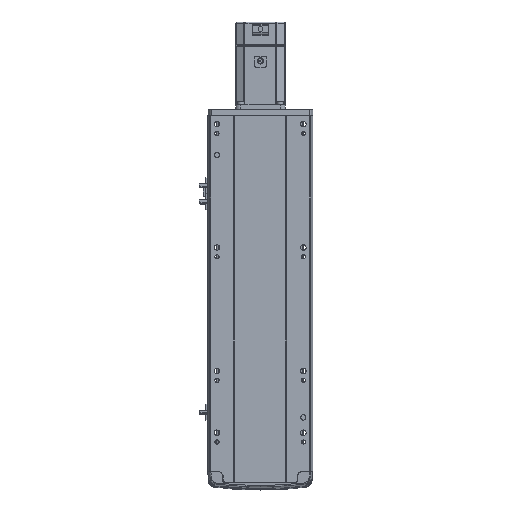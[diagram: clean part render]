
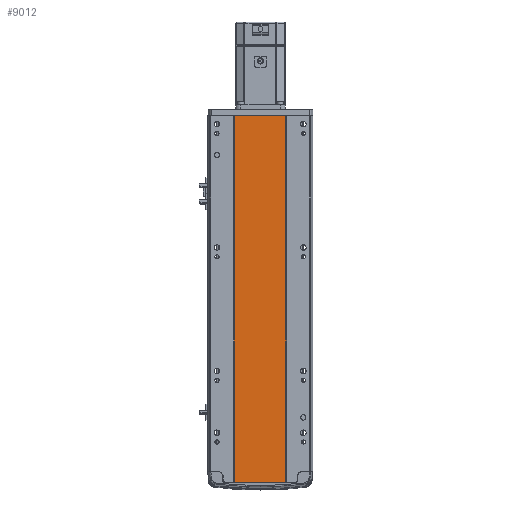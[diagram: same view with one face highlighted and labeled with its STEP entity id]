
A CAD part, front view. The second image highlights one B-rep face of the part: STEP entity #9012.
In plain terms, the highlighted planar face has unit normal (0, -1, 0).
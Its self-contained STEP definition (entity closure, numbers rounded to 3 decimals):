
#250 = LINE ( 'NONE', #22424, #46290 ) ;
#513 = CARTESIAN_POINT ( 'NONE',  ( 41.793, 0.998, 593.5 ) ) ;
#2313 = DIRECTION ( 'NONE',  ( -1., 0., 0. ) ) ;
#4620 = CARTESIAN_POINT ( 'NONE',  ( 41.793, 0.998, 0. ) ) ;
#5669 = CARTESIAN_POINT ( 'NONE',  ( 0., 0.999, 593.5 ) ) ;
#5841 = DIRECTION ( 'NONE',  ( 0., 1., 0. ) ) ;
#7331 = CARTESIAN_POINT ( 'NONE',  ( -41.791, 1., 593.5 ) ) ;
#8394 = VECTOR ( 'NONE', #16820, 1000. ) ;
#9012 = ADVANCED_FACE ( 'NONE', ( #32128 ), #25469, .F. ) ;
#9759 = VECTOR ( 'NONE', #35567, 1000. ) ;
#10753 = CARTESIAN_POINT ( 'NONE',  ( -41.791, 1., 0. ) ) ;
#12575 = DIRECTION ( 'NONE',  ( 0., 0., -1. ) ) ;
#12802 = CARTESIAN_POINT ( 'NONE',  ( 41.793, 0.998, 593.5 ) ) ;
#15312 = AXIS2_PLACEMENT_3D ( 'NONE', #5669, #5841, #2313 ) ;
#16820 = DIRECTION ( 'NONE',  ( 1., 0., 0. ) ) ;
#20203 = LINE ( 'NONE', #28604, #8394 ) ;
#20310 = LINE ( 'NONE', #46819, #9759 ) ;
#22424 = CARTESIAN_POINT ( 'NONE',  ( -41.791, 1., 593.5 ) ) ;
#23195 = EDGE_LOOP ( 'NONE', ( #33511, #32479, #32020, #27554 ) ) ;
#25469 = PLANE ( 'NONE',  #15312 ) ;
#27554 = ORIENTED_EDGE ( 'NONE', *, *, #39673, .T. ) ;
#27804 = LINE ( 'NONE', #513, #29040 ) ;
#28604 = CARTESIAN_POINT ( 'NONE',  ( 0., 0.999, 0. ) ) ;
#29040 = VECTOR ( 'NONE', #12575, 1000. ) ;
#29932 = VERTEX_POINT ( 'NONE', #10753 ) ;
#30048 = DIRECTION ( 'NONE',  ( 0., 0., -1. ) ) ;
#30629 = EDGE_CURVE ( 'NONE', #31653, #43550, #27804, .T. ) ;
#31653 = VERTEX_POINT ( 'NONE', #12802 ) ;
#32020 = ORIENTED_EDGE ( 'NONE', *, *, #42132, .F. ) ;
#32128 = FACE_OUTER_BOUND ( 'NONE', #23195, .T. ) ;
#32479 = ORIENTED_EDGE ( 'NONE', *, *, #30629, .F. ) ;
#33511 = ORIENTED_EDGE ( 'NONE', *, *, #43494, .T. ) ;
#35567 = DIRECTION ( 'NONE',  ( 1., 0., 0. ) ) ;
#39673 = EDGE_CURVE ( 'NONE', #51078, #29932, #250, .T. ) ;
#42132 = EDGE_CURVE ( 'NONE', #51078, #31653, #20310, .T. ) ;
#43494 = EDGE_CURVE ( 'NONE', #29932, #43550, #20203, .T. ) ;
#43550 = VERTEX_POINT ( 'NONE', #4620 ) ;
#46290 = VECTOR ( 'NONE', #30048, 1000. ) ;
#46819 = CARTESIAN_POINT ( 'NONE',  ( 0., 0.999, 593.5 ) ) ;
#51078 = VERTEX_POINT ( 'NONE', #7331 ) ;
